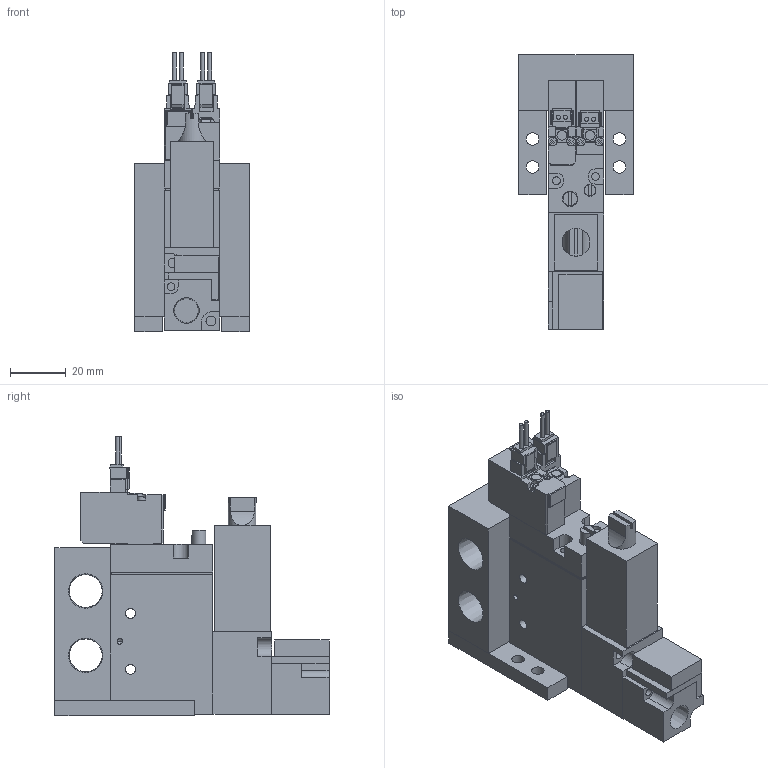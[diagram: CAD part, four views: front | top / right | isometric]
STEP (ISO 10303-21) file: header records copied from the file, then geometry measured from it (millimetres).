
FILE_DESCRIPTION(('STEP AP203'),'1');
FILE_NAME('BMPV32M2NZ25AL101.stp','2025-06-17T01:10:42',(' '),(' '),'Spatial InterOp 3D',' ',' ');
FILE_SCHEMA(('CONFIG_CONTROL_DESIGN'));
Length unit declared in the file: millimetre
Products named in the file (16): BMPV32M2NZ25AL101; MB01; MB BRACKET; S____; ___ ___2; ___-2(Rc); Filter Assy; __; _____; ___; upper plate-A; ______; ____; VACUUM VALVE FUNCTION MPV42-A; UV280-4E
Assembly tree (15 placements, depth 2):
  BMPV32M2NZ25AL101
    MB01
    MB BRACKET
    MB BRACKET
    S____
    ___ ___2
    ___-2(Rc)
    Filter Assy
    __
    _____
    ___
    upper plate-A
    ______
    ____
    VACUUM VALVE FUNCTION MPV42-A
    UV280-4E
Bounding box: 41 x 98 x 99.75 mm (x, y, z)
Volume: 126024.1 mm3; surface area: 45259.9 mm2
Topology: 15 solids, 15 shells, 406 faces, 1046 edges, 691 vertices
Faces by surface type: plane 315, cylinder 77, cone 14
Full cylindrical faces by diameter (mm): 1.4 x4, 1.8 x2, 2 x2, 2.5 x6, 2.8 x4, 3 x4, 3.5 x14, 4 x1, 4.2 x1, 4.5 x4, 5 x1, 5.5 x1, 6.5 x6, 8.522 x1, 11.776 x2
Entity records: 12731 total; most frequent: CARTESIAN_POINT 2136, DIRECTION 1989, ORIENTED_EDGE 1918, EDGE_CURVE 959, LINE 765, VECTOR 765, VERTEX_POINT 681, AXIS2_PLACEMENT_3D 612
